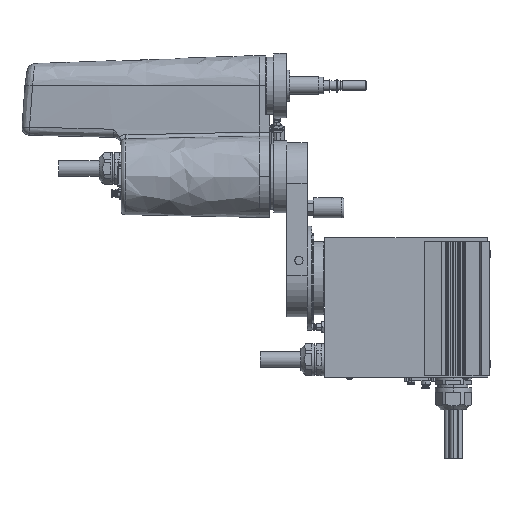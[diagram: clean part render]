
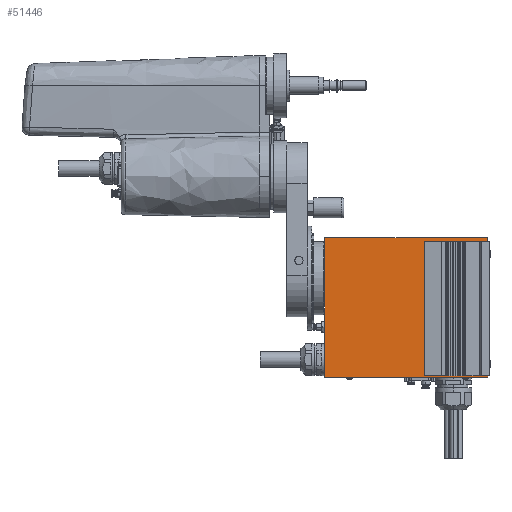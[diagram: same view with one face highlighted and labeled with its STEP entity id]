
A CAD part, left-side view. The second image highlights one B-rep face of the part: STEP entity #51446.
In plain terms, the highlighted planar face has unit normal (-1, 0, 0) as drawn and (1, 0, 0) by its records, which use the part's own axes.
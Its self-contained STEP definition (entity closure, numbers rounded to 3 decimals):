
#30962 = CARTESIAN_POINT ( 'NONE',  ( 50., 45., 3. ) ) ;
#30967 = CARTESIAN_POINT ( 'NONE',  ( 50., 50., 3. ) ) ;
#31284 = DIRECTION ( 'NONE',  ( 0., -1., 0. ) ) ;
#31285 = VECTOR ( 'NONE', #31284, 1000. ) ;
#31286 = CARTESIAN_POINT ( 'NONE',  ( 50., 50., 3. ) ) ;
#31287 = LINE ( 'NONE', #31286, #31285 ) ;
#31417 = CARTESIAN_POINT ( 'NONE',  ( 50., -121.6, 3. ) ) ;
#31418 = DIRECTION ( 'NONE',  ( 0., 1., 0. ) ) ;
#31419 = VECTOR ( 'NONE', #31418, 1000. ) ;
#31420 = CARTESIAN_POINT ( 'NONE',  ( 50., -121.6, 3. ) ) ;
#31421 = LINE ( 'NONE', #31420, #31419 ) ;
#31422 = CARTESIAN_POINT ( 'NONE',  ( 50., -120., 3. ) ) ;
#36783 = CARTESIAN_POINT ( 'NONE',  ( 50., -120., 80. ) ) ;
#37293 = DIRECTION ( 'NONE',  ( 0., 0., 1. ) ) ;
#37295 = VECTOR ( 'NONE', #37293, 1000. ) ;
#37296 = CARTESIAN_POINT ( 'NONE',  ( 50., -120., 3. ) ) ;
#37298 = LINE ( 'NONE', #37296, #37295 ) ;
#37435 = DIRECTION ( 'NONE',  ( 0., 0., 1. ) ) ;
#37436 = VECTOR ( 'NONE', #37435, 1000. ) ;
#37438 = CARTESIAN_POINT ( 'NONE',  ( 50., -121.6, 3. ) ) ;
#37439 = LINE ( 'NONE', #37438, #37436 ) ;
#37442 = CARTESIAN_POINT ( 'NONE',  ( 50., -121.6, 203.5 ) ) ;
#37444 = DIRECTION ( 'NONE',  ( 0., 1., 0. ) ) ;
#37445 = VECTOR ( 'NONE', #37444, 1000. ) ;
#37447 = CARTESIAN_POINT ( 'NONE',  ( 50., -120., 203.5 ) ) ;
#37449 = LINE ( 'NONE', #37447, #37445 ) ;
#37455 = CARTESIAN_POINT ( 'NONE',  ( 50., 50., 203.5 ) ) ;
#37456 = DIRECTION ( 'NONE',  ( 0., 0., -1. ) ) ;
#37457 = VECTOR ( 'NONE', #37456, 1000. ) ;
#37460 = CARTESIAN_POINT ( 'NONE',  ( 50., 50., 3. ) ) ;
#37461 = LINE ( 'NONE', #37460, #37457 ) ;
#37466 = DIRECTION ( 'NONE',  ( 0., -1., 0. ) ) ;
#37468 = DIRECTION ( 'NONE',  ( -1., 0., 0. ) ) ;
#37469 = CARTESIAN_POINT ( 'NONE',  ( 50., -121.6, 3. ) ) ;
#37470 = AXIS2_PLACEMENT_3D ( 'NONE', #37469, #37468, #37466 ) ;
#37472 = PLANE ( 'NONE',  #37470 ) ;
#37476 = FACE_OUTER_BOUND ( 'NONE', #51447, .T. ) ;
#38016 = DIRECTION ( 'NONE',  ( 0., 1., 0. ) ) ;
#38017 = VECTOR ( 'NONE', #38016, 1000. ) ;
#38018 = CARTESIAN_POINT ( 'NONE',  ( 50., -120., 80. ) ) ;
#38019 = LINE ( 'NONE', #38018, #38017 ) ;
#42303 = CARTESIAN_POINT ( 'NONE',  ( 50., 45., 80. ) ) ;
#42304 = DIRECTION ( 'NONE',  ( 0., 0., -1. ) ) ;
#42305 = VECTOR ( 'NONE', #42304, 1000. ) ;
#42306 = CARTESIAN_POINT ( 'NONE',  ( 50., 45., 3. ) ) ;
#42307 = LINE ( 'NONE', #42306, #42305 ) ;
#44979 = VERTEX_POINT ( 'NONE', #30967 ) ;
#44981 = VERTEX_POINT ( 'NONE', #30962 ) ;
#45096 = EDGE_CURVE ( 'NONE', #44979, #44981, #31287, .T. ) ;
#45107 = VERTEX_POINT ( 'NONE', #31422 ) ;
#45110 = EDGE_CURVE ( 'NONE', #45111, #45107, #31421, .T. ) ;
#45111 = VERTEX_POINT ( 'NONE', #31417 ) ;
#51114 = VERTEX_POINT ( 'NONE', #36783 ) ;
#51327 = EDGE_CURVE ( 'NONE', #45107, #51114, #37298, .T. ) ;
#51436 = ORIENTED_EDGE ( 'NONE', *, *, #51580, .T. ) ;
#51437 = ORIENTED_EDGE ( 'NONE', *, *, #53617, .T. ) ;
#51438 = ORIENTED_EDGE ( 'NONE', *, *, #45096, .F. ) ;
#51446 = ADVANCED_FACE ( 'NONE', ( #37476 ), #37472, .F. ) ;
#51447 = EDGE_LOOP ( 'NONE', ( #51448, #51436, #51437, #51438, #51449, #51452, #51455, #51457 ) ) ;
#51448 = ORIENTED_EDGE ( 'NONE', *, *, #51327, .T. ) ;
#51449 = ORIENTED_EDGE ( 'NONE', *, *, #51450, .F. ) ;
#51450 = EDGE_CURVE ( 'NONE', #51451, #44979, #37461, .T. ) ;
#51451 = VERTEX_POINT ( 'NONE', #37455 ) ;
#51452 = ORIENTED_EDGE ( 'NONE', *, *, #51453, .F. ) ;
#51453 = EDGE_CURVE ( 'NONE', #51454, #51451, #37449, .T. ) ;
#51454 = VERTEX_POINT ( 'NONE', #37442 ) ;
#51455 = ORIENTED_EDGE ( 'NONE', *, *, #51456, .F. ) ;
#51456 = EDGE_CURVE ( 'NONE', #45111, #51454, #37439, .T. ) ;
#51457 = ORIENTED_EDGE ( 'NONE', *, *, #45110, .T. ) ;
#51580 = EDGE_CURVE ( 'NONE', #51114, #53618, #38019, .T. ) ;
#53617 = EDGE_CURVE ( 'NONE', #53618, #44981, #42307, .T. ) ;
#53618 = VERTEX_POINT ( 'NONE', #42303 ) ;
